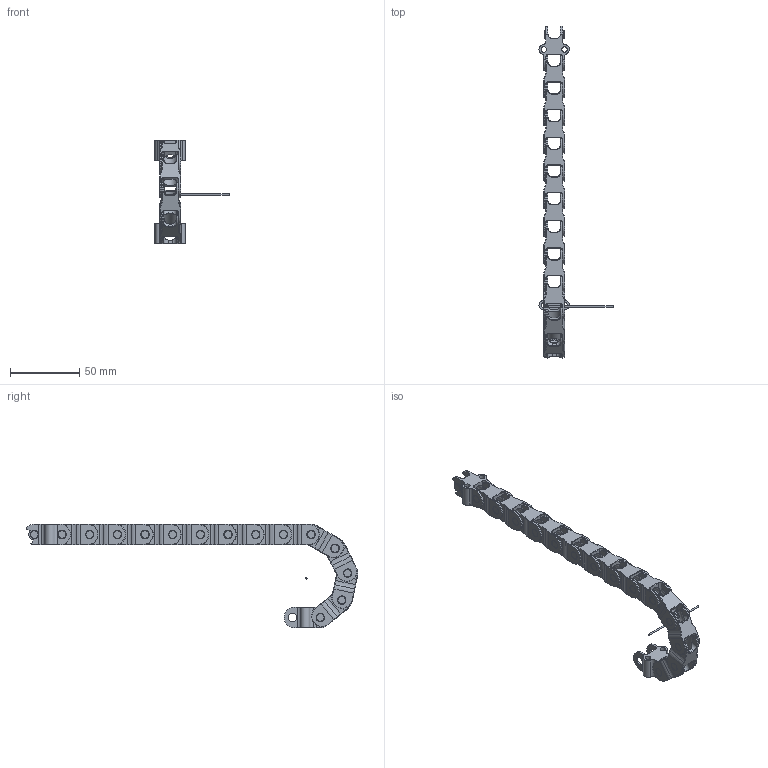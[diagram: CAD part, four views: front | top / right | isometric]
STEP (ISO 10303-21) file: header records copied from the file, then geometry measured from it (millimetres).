
FILE_DESCRIPTION((''),'2;1');
FILE_NAME('C:\Uebbing\PARAMETERKETTEN\KOLIBRI\Kol_15_015_3\KOLIBRI 15_015_3_R30.stp','2012-03-02T14:40:19',('Uebbing'),(''),'Autodesk Inventor 10','Autodesk Inventor 10','');
FILE_SCHEMA(('AUTOMOTIVE_DESIGN { 1 0 10303 214 1 1 1 1 }'));
Length unit declared in the file: millimetre
Products named in the file (4): KOLIBRI 15_015_3_PARAMETRISCH_K_Anschluß; Achse; Kol_15_015_3_Anschluss; Kol_15_015_3
Assembly tree (16 placements, depth 2):
  KOLIBRI 15_015_3_PARAMETRISCH_K_Anschluß
    Achse
    Kol_15_015_3_Anschluss  x2
    Kol_15_015_3  x13
Bounding box: 53.5 x 239.81 x 75 mm (x, y, z)
Volume: 32416.1 mm3; surface area: 35145.1 mm2
Topology: 16 solids, 16 shells, 1630 faces, 4089 edges, 2491 vertices
Faces by surface type: cylinder 773, plane 407, torus 325, bspline 65, cone 60
Full cylindrical faces by diameter (mm): 1 x1, 4 x4, 6.1 x30, 10 x15
Entity records: 6525 total; most frequent: CARTESIAN_POINT 1851, DIRECTION 1013, ORIENTED_EDGE 906, EDGE_CURVE 453, AXIS2_PLACEMENT_3D 403, VERTEX_POINT 292, EDGE_LOOP 217, VECTOR 207
